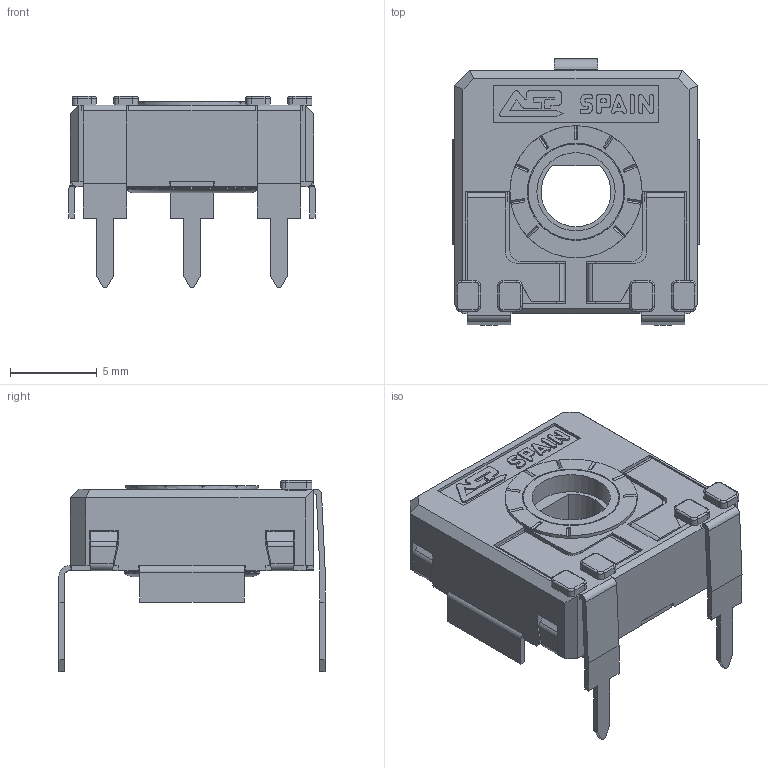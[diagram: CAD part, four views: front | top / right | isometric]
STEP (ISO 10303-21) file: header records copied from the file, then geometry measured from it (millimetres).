
FILE_DESCRIPTION(/* description */ (''),/* implementation_level */ '2;1');
FILE_NAME(/* name */ 'C:\Users\CEM\Desktop\ENVIAR\TRANSICION 3D CATALOGOS\RS14FV15 CFF RT-RO.stp',/* time_stamp */ '2025-12-10T10:39:09+01:00',/* author */ ('CEM'),/* organization */ (''),/* preprocessor_version */ 'ST-DEVELOPER v16.13',/* originating_system */ 'Autodesk Inventor 2018',/* authorisation */ '');
FILE_SCHEMA (('AUTOMOTIVE_DESIGN { 1 0 10303 214 3 1 1 }'));
Length unit declared in the file: millimetre
Products named in the file (1): CARCASA CA14 PGA
Bounding box: 14.15 x 15.3 x 11 mm (x, y, z)
Volume: 531.2 mm3; surface area: 1521.6 mm2
Topology: 1 solids, 1 shells, 679 faces, 1912 edges, 1230 vertices
Faces by surface type: plane 500, cylinder 142, torus 23, bspline 8, cone 6
Full cylindrical faces by diameter (mm): 4.5 x1, 5.5 x1, 5.6 x1, 5.752 x1, 6.8 x1, 7.6 x1
Entity records: 22001 total; most frequent: CARTESIAN_POINT 4016, ORIENTED_EDGE 3796, DIRECTION 3584, EDGE_CURVE 1898, LINE 1500, VECTOR 1500, VERTEX_POINT 1226, AXIS2_PLACEMENT_3D 1042
